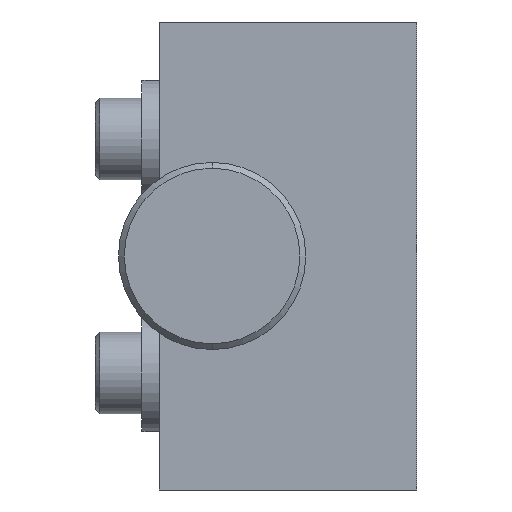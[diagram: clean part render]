
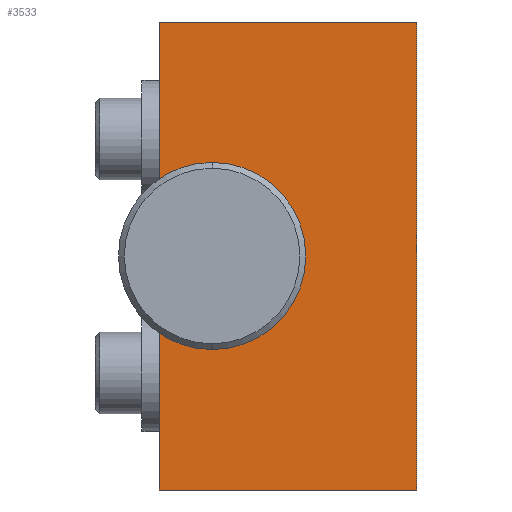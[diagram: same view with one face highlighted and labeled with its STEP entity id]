
A CAD part, left-side view. The second image highlights one B-rep face of the part: STEP entity #3533.
In plain terms, the highlighted planar face has unit normal (-1, 0, 0).
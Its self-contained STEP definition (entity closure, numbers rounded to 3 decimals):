
#46 = CARTESIAN_POINT ( 'NONE',  ( -65., 17.5, 2.25 ) ) ;
#131 = VECTOR ( 'NONE', #2143, 1000. ) ;
#166 = ORIENTED_EDGE ( 'NONE', *, *, #4180, .T. ) ;
#234 = CARTESIAN_POINT ( 'NONE',  ( -65., 22., -2.25 ) ) ;
#235 = LINE ( 'NONE', #719, #4523 ) ;
#355 = DIRECTION ( 'NONE',  ( 0., -1., 0. ) ) ;
#377 = LINE ( 'NONE', #46, #3771 ) ;
#393 = EDGE_LOOP ( 'NONE', ( #166, #4138, #2864, #3569, #611, #3349, #3280, #2133 ) ) ;
#429 = CARTESIAN_POINT ( 'NONE',  ( -65., 0., 20. ) ) ;
#545 = DIRECTION ( 'NONE',  ( 0., 0., 1. ) ) ;
#611 = ORIENTED_EDGE ( 'NONE', *, *, #1843, .T. ) ;
#719 = CARTESIAN_POINT ( 'NONE',  ( -65., 22., 20. ) ) ;
#962 = CARTESIAN_POINT ( 'NONE',  ( -65., 0., 20. ) ) ;
#1003 = VERTEX_POINT ( 'NONE', #5059 ) ;
#1218 = CIRCLE ( 'NONE', #4910, 2.25 ) ;
#1376 = LINE ( 'NONE', #962, #4648 ) ;
#1411 = DIRECTION ( 'NONE',  ( 0., -1., 0. ) ) ;
#1498 = LINE ( 'NONE', #5309, #2951 ) ;
#1601 = EDGE_CURVE ( 'NONE', #4980, #2560, #4279, .T. ) ;
#1644 = DIRECTION ( 'NONE',  ( 0., 1., 0. ) ) ;
#1788 = CARTESIAN_POINT ( 'NONE',  ( -65., 17.5, 0. ) ) ;
#1843 = EDGE_CURVE ( 'NONE', #4980, #3874, #235, .T. ) ;
#1846 = DIRECTION ( 'NONE',  ( 0., -1., 0. ) ) ;
#1952 = CARTESIAN_POINT ( 'NONE',  ( -65., 0., -20. ) ) ;
#2100 = EDGE_CURVE ( 'NONE', #4841, #4879, #4270, .T. ) ;
#2133 = ORIENTED_EDGE ( 'NONE', *, *, #3603, .F. ) ;
#2143 = DIRECTION ( 'NONE',  ( 0., 0., -1. ) ) ;
#2226 = AXIS2_PLACEMENT_3D ( 'NONE', #4327, #4810, #4874 ) ;
#2560 = VERTEX_POINT ( 'NONE', #3093 ) ;
#2573 = LINE ( 'NONE', #3835, #5099 ) ;
#2809 = CARTESIAN_POINT ( 'NONE',  ( -65., 17.5, 2.25 ) ) ;
#2864 = ORIENTED_EDGE ( 'NONE', *, *, #3580, .F. ) ;
#2930 = EDGE_CURVE ( 'NONE', #3874, #4879, #1498, .T. ) ;
#2951 = VECTOR ( 'NONE', #1846, 1000. ) ;
#3048 = VERTEX_POINT ( 'NONE', #5509 ) ;
#3074 = VECTOR ( 'NONE', #355, 1000. ) ;
#3093 = CARTESIAN_POINT ( 'NONE',  ( -65., 17.5, -2.25 ) ) ;
#3280 = ORIENTED_EDGE ( 'NONE', *, *, #2100, .F. ) ;
#3349 = ORIENTED_EDGE ( 'NONE', *, *, #2930, .T. ) ;
#3419 = CARTESIAN_POINT ( 'NONE',  ( -65., 22., -20. ) ) ;
#3421 = EDGE_CURVE ( 'NONE', #4939, #1003, #377, .T. ) ;
#3533 = ADVANCED_FACE ( 'NONE', ( #3572 ), #5328, .F. ) ;
#3569 = ORIENTED_EDGE ( 'NONE', *, *, #1601, .F. ) ;
#3572 = FACE_OUTER_BOUND ( 'NONE', #393, .T. ) ;
#3580 = EDGE_CURVE ( 'NONE', #2560, #4939, #1218, .T. ) ;
#3603 = EDGE_CURVE ( 'NONE', #3048, #4841, #1376, .T. ) ;
#3771 = VECTOR ( 'NONE', #1644, 1000. ) ;
#3835 = CARTESIAN_POINT ( 'NONE',  ( -65., 22., 20. ) ) ;
#3874 = VERTEX_POINT ( 'NONE', #3419 ) ;
#3987 = DIRECTION ( 'NONE',  ( -1., 0., 0. ) ) ;
#4076 = DIRECTION ( 'NONE',  ( 0., 0., -1. ) ) ;
#4138 = ORIENTED_EDGE ( 'NONE', *, *, #3421, .F. ) ;
#4180 = EDGE_CURVE ( 'NONE', #3048, #1003, #2573, .T. ) ;
#4270 = LINE ( 'NONE', #429, #131 ) ;
#4279 = LINE ( 'NONE', #4653, #3074 ) ;
#4327 = CARTESIAN_POINT ( 'NONE',  ( -65., 0., 20. ) ) ;
#4412 = CARTESIAN_POINT ( 'NONE',  ( -65., 0., 20. ) ) ;
#4523 = VECTOR ( 'NONE', #4076, 1000. ) ;
#4648 = VECTOR ( 'NONE', #1411, 1000. ) ;
#4653 = CARTESIAN_POINT ( 'NONE',  ( -65., 22., -2.25 ) ) ;
#4810 = DIRECTION ( 'NONE',  ( 1., 0., 0. ) ) ;
#4841 = VERTEX_POINT ( 'NONE', #4412 ) ;
#4874 = DIRECTION ( 'NONE',  ( 0., 0., -1. ) ) ;
#4879 = VERTEX_POINT ( 'NONE', #1952 ) ;
#4910 = AXIS2_PLACEMENT_3D ( 'NONE', #1788, #3987, #545 ) ;
#4939 = VERTEX_POINT ( 'NONE', #2809 ) ;
#4980 = VERTEX_POINT ( 'NONE', #234 ) ;
#5059 = CARTESIAN_POINT ( 'NONE',  ( -65., 22., 2.25 ) ) ;
#5099 = VECTOR ( 'NONE', #5199, 1000. ) ;
#5199 = DIRECTION ( 'NONE',  ( 0., 0., -1. ) ) ;
#5309 = CARTESIAN_POINT ( 'NONE',  ( -65., 0., -20. ) ) ;
#5328 = PLANE ( 'NONE',  #2226 ) ;
#5509 = CARTESIAN_POINT ( 'NONE',  ( -65., 22., 20. ) ) ;
